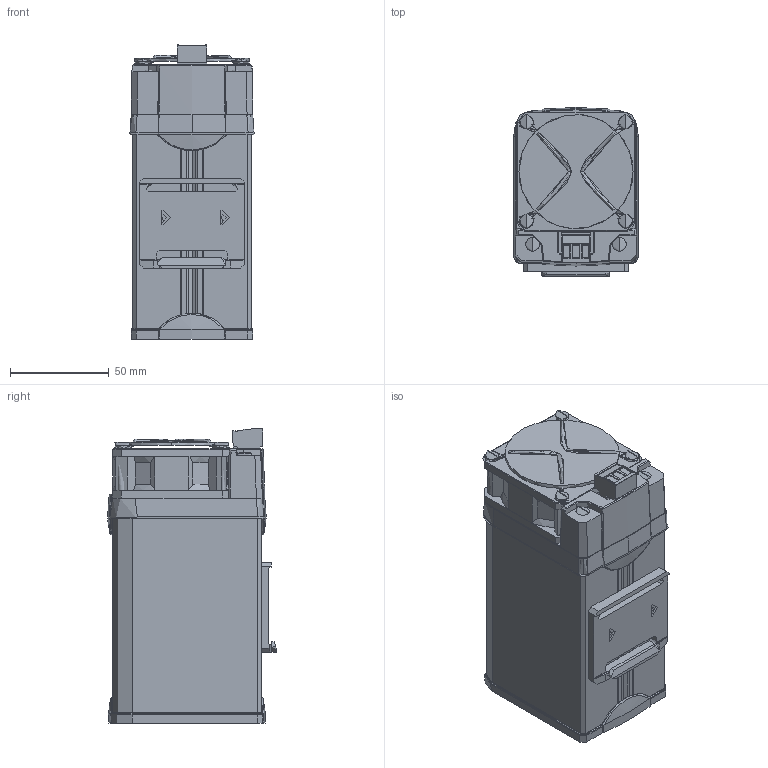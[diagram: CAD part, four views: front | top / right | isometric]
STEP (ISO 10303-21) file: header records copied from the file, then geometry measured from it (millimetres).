
FILE_DESCRIPTION(/* description */ (''),/* implementation_level */ '2;1');
FILE_NAME(/* name */ 'HVMS200THP-300(X)-1',/* time_stamp */ '2026-02-06T08:45:14+01:00',/* author */ (''),/* organization */ (''),/* preprocessor_version */ 'ST-DEVELOPER v16.5',/* originating_system */ 'Rhino 7.38',/* authorisation */ '');
FILE_SCHEMA (('AUTOMOTIVE_DESIGN'));
Length unit declared in the file: millimetre
Products named in the file (14): Document; HVMS200THP-300(X)-1; Base plastica CLIP_CLIP-01 semplificata; Copertura Alluminio_Lungh. L100 mm semplificata; Vite ST3.5x38_semplificata; Vite ST3.5_semplificata; 2EDGKF-5.0-03P-04_semplificata; Profilo dissipatore deformato_Lung.100mm semplificato; DT-04539DSI_Semplificata; DT-04687DSI_Default semplificata; Blocco 01; 60N_semplificata; Tappo Plastico di estremità_tappo semplificato; DT-04535DSI_Metallica semplificata
Assembly tree (22 placements, depth 4):
  Document
    HVMS200THP-300(X)-1
      Base plastica CLIP_CLIP-01 semplificata
      Copertura Alluminio_Lungh. L100 mm semplificata  x2
      Vite ST3.5x38_semplificata  x6
      Vite ST3.5_semplificata  x4
      2EDGKF-5.0-03P-04_semplificata
      Profilo dissipatore deformato_Lung.100mm semplificato
      DT-04539DSI_Semplificata
      DT-04687DSI_Default semplificata
        Blocco 01
      60N_semplificata
      Tappo Plastico di estremità_tappo semplificato
      DT-04535DSI_Metallica semplificata
Bounding box: 62.7 x 85.28 x 148.59 mm (x, y, z)
Volume: 575196.6 mm3; surface area: 120166.2 mm2
Topology: 32 solids, 32 shells, 1015 faces, 2635 edges, 1706 vertices
Faces by surface type: plane 430, bspline 357, cylinder 228
Entity records: 51721 total; most frequent: CARTESIAN_POINT 34303, ORIENTED_EDGE 5030, EDGE_CURVE 2515, B_SPLINE_CURVE_WITH_KNOTS 1645, VERTEX_POINT 1634, EDGE_LOOP 1025, ADVANCED_FACE 949, FACE_OUTER_BOUND 949
